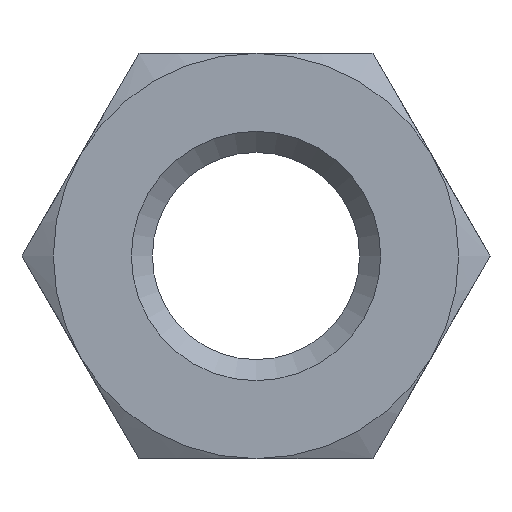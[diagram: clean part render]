
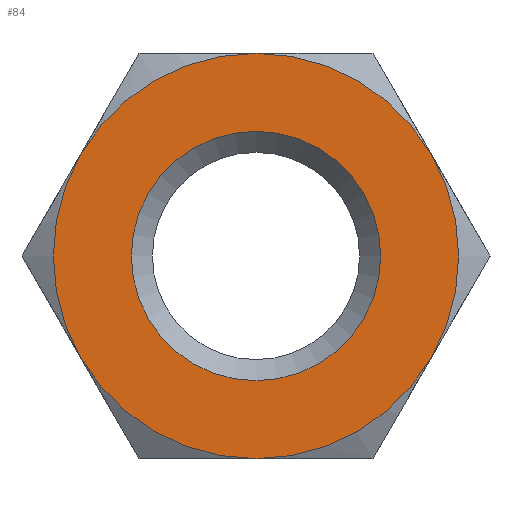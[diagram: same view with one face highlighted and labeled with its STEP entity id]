
A CAD part, left-side view. The second image highlights one B-rep face of the part: STEP entity #84.
In plain terms, the highlighted planar face has unit normal (-1, 0, 0).
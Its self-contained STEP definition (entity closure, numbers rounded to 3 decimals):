
#84 = ADVANCED_FACE( '', ( #118, #119 ), #120, .F. );
#118 = FACE_OUTER_BOUND( '', #169, .T. );
#119 = FACE_BOUND( '', #170, .T. );
#120 = PLANE( '', #171 );
#169 = EDGE_LOOP( '', ( #268, #269, #270, #271, #272, #273 ) );
#170 = EDGE_LOOP( '', ( #274 ) );
#171 = AXIS2_PLACEMENT_3D( '', #275, #276, #277 );
#268 = ORIENTED_EDGE( '', *, *, #391, .F. );
#269 = ORIENTED_EDGE( '', *, *, #392, .F. );
#270 = ORIENTED_EDGE( '', *, *, #393, .F. );
#271 = ORIENTED_EDGE( '', *, *, #389, .F. );
#272 = ORIENTED_EDGE( '', *, *, #387, .F. );
#273 = ORIENTED_EDGE( '', *, *, #388, .F. );
#274 = ORIENTED_EDGE( '', *, *, #394, .T. );
#275 = CARTESIAN_POINT( '', ( 0., 0., 0. ) );
#276 = DIRECTION( '', ( 1., 0., 0. ) );
#277 = DIRECTION( '', ( 0., 0., -1. ) );
#387 = EDGE_CURVE( '', #417, #435, #451, .T. );
#388 = EDGE_CURVE( '', #426, #417, #452, .T. );
#389 = EDGE_CURVE( '', #435, #453, #454, .T. );
#391 = EDGE_CURVE( '', #456, #426, #457, .T. );
#392 = EDGE_CURVE( '', #458, #456, #459, .T. );
#393 = EDGE_CURVE( '', #453, #458, #460, .T. );
#394 = EDGE_CURVE( '', #461, #461, #462, .T. );
#417 = VERTEX_POINT( '', #503 );
#426 = VERTEX_POINT( '', #535 );
#435 = VERTEX_POINT( '', #569 );
#451 = CIRCLE( '', #609, 6.5 );
#452 = CIRCLE( '', #610, 6.5 );
#453 = VERTEX_POINT( '', #611 );
#454 = CIRCLE( '', #612, 6.5 );
#456 = VERTEX_POINT( '', #621 );
#457 = CIRCLE( '', #622, 6.5 );
#458 = VERTEX_POINT( '', #623 );
#459 = CIRCLE( '', #624, 6.5 );
#460 = CIRCLE( '', #625, 6.5 );
#461 = VERTEX_POINT( '', #626 );
#462 = CIRCLE( '', #627, 4. );
#503 = CARTESIAN_POINT( '', ( 0., 0., 6.5 ) );
#535 = CARTESIAN_POINT( '', ( 0., 5.629, 3.25 ) );
#569 = CARTESIAN_POINT( '', ( 0., -5.629, 3.25 ) );
#609 = AXIS2_PLACEMENT_3D( '', #723, #724, #725 );
#610 = AXIS2_PLACEMENT_3D( '', #726, #727, #728 );
#611 = CARTESIAN_POINT( '', ( 0., -5.629, -3.25 ) );
#612 = AXIS2_PLACEMENT_3D( '', #729, #730, #731 );
#621 = CARTESIAN_POINT( '', ( 0., 5.629, -3.25 ) );
#622 = AXIS2_PLACEMENT_3D( '', #732, #733, #734 );
#623 = CARTESIAN_POINT( '', ( 0., 0., -6.5 ) );
#624 = AXIS2_PLACEMENT_3D( '', #735, #736, #737 );
#625 = AXIS2_PLACEMENT_3D( '', #738, #739, #740 );
#626 = CARTESIAN_POINT( '', ( 0., 0., -4. ) );
#627 = AXIS2_PLACEMENT_3D( '', #741, #742, #743 );
#723 = CARTESIAN_POINT( '', ( 0., 0., 0. ) );
#724 = DIRECTION( '', ( 1., 0., 0. ) );
#725 = DIRECTION( '', ( 0., 0., -1. ) );
#726 = CARTESIAN_POINT( '', ( 0., 0., 0. ) );
#727 = DIRECTION( '', ( 1., 0., 0. ) );
#728 = DIRECTION( '', ( 0., 0., -1. ) );
#729 = CARTESIAN_POINT( '', ( 0., 0., 0. ) );
#730 = DIRECTION( '', ( 1., 0., 0. ) );
#731 = DIRECTION( '', ( 0., 0., -1. ) );
#732 = CARTESIAN_POINT( '', ( 0., 0., 0. ) );
#733 = DIRECTION( '', ( 1., 0., 0. ) );
#734 = DIRECTION( '', ( 0., 0., -1. ) );
#735 = CARTESIAN_POINT( '', ( 0., 0., 0. ) );
#736 = DIRECTION( '', ( 1., 0., 0. ) );
#737 = DIRECTION( '', ( 0., 0., -1. ) );
#738 = CARTESIAN_POINT( '', ( 0., 0., 0. ) );
#739 = DIRECTION( '', ( 1., 0., 0. ) );
#740 = DIRECTION( '', ( 0., 0., -1. ) );
#741 = CARTESIAN_POINT( '', ( 0., 0., 0. ) );
#742 = DIRECTION( '', ( 1., 0., 0. ) );
#743 = DIRECTION( '', ( 0., 0., -1. ) );
